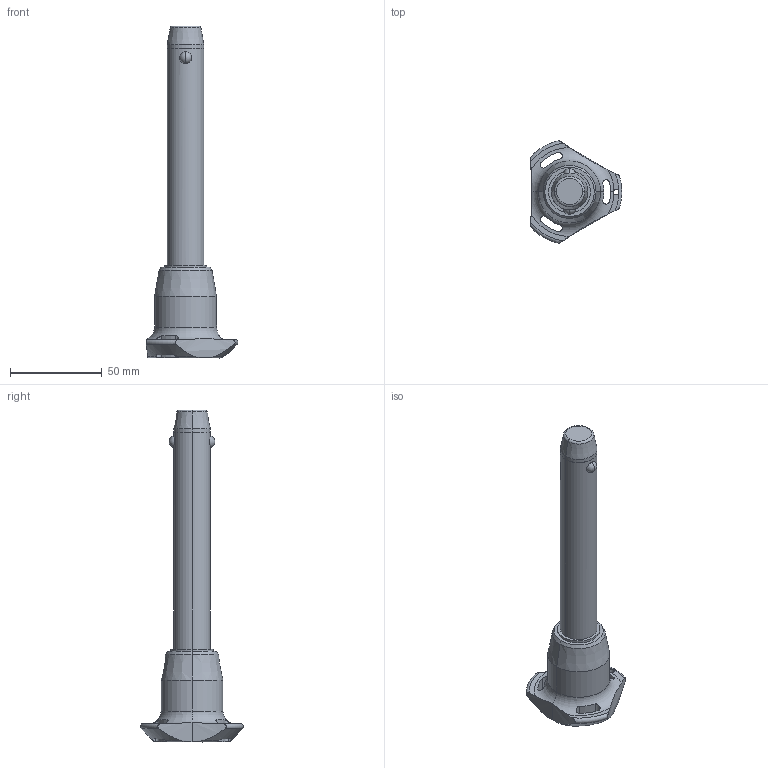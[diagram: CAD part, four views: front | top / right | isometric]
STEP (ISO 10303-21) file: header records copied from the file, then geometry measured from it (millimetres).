
FILE_DESCRIPTION (( 'STEP AP203' ), '1' );
FILE_NAME ('QR1736.M20-110-T.step', '2025-11-13T12:12:45', ( '' ), ( '' ), 'SwSTEP 2.0', 'SolidWorks 2019', '' );
FILE_SCHEMA (( 'CONFIG_CONTROL_DESIGN' ));
Length unit declared in the file: millimetre
Products named in the file (1): QR1736.M20-110-T
Bounding box: 50.04 x 56.02 x 181.2 mm (x, y, z)
Volume: 88333.2 mm3; surface area: 17879.2 mm2
Topology: 1 solids, 1 shells, 68 faces, 182 edges, 115 vertices
Faces by surface type: cylinder 32, cone 14, torus 11, sphere 6, plane 5
Entity records: 2938 total; most frequent: CARTESIAN_POINT 1192, ORIENTED_EDGE 364, DIRECTION 345, EDGE_CURVE 182, AXIS2_PLACEMENT_3D 154, VERTEX_POINT 115, CIRCLE 85, EDGE_LOOP 75
